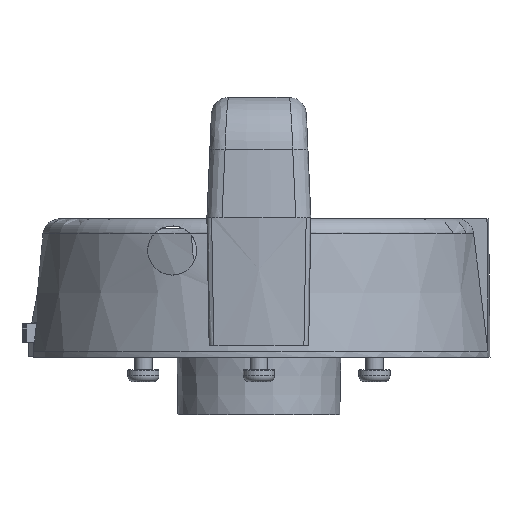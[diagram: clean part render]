
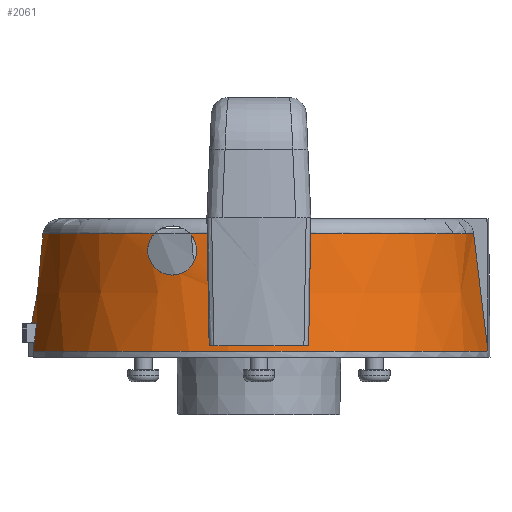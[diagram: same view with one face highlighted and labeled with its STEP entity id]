
A CAD part, left-side view. The second image highlights one B-rep face of the part: STEP entity #2061.
In plain terms, the highlighted conical face has half-angle 7 degrees and reference radius 0 mm.
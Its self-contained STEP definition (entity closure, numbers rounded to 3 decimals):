
#232=(
BOUNDED_CURVE()
B_SPLINE_CURVE(2,(#18035,#18036,#18037),.UNSPECIFIED.,.F.,.F.)
B_SPLINE_CURVE_WITH_KNOTS((3,3),(0.,1.),.UNSPECIFIED.)
CURVE()
GEOMETRIC_REPRESENTATION_ITEM()
RATIONAL_B_SPLINE_CURVE((3.829,3.803,3.778))
REPRESENTATION_ITEM('')
);
#241=(
BOUNDED_CURVE()
B_SPLINE_CURVE(2,(#18479,#18480,#18481),.UNSPECIFIED.,.F.,.F.)
B_SPLINE_CURVE_WITH_KNOTS((3,3),(0.,1.),.UNSPECIFIED.)
CURVE()
GEOMETRIC_REPRESENTATION_ITEM()
RATIONAL_B_SPLINE_CURVE((3.749,3.774,3.8))
REPRESENTATION_ITEM('')
);
#244=(
BOUNDED_CURVE()
B_SPLINE_CURVE(2,(#18982,#18983,#18984),.UNSPECIFIED.,.F.,.F.)
B_SPLINE_CURVE_WITH_KNOTS((3,3),(0.,1.),.UNSPECIFIED.)
CURVE()
GEOMETRIC_REPRESENTATION_ITEM()
RATIONAL_B_SPLINE_CURVE((3.983,4.108,4.233))
REPRESENTATION_ITEM('')
);
#245=(
BOUNDED_CURVE()
B_SPLINE_CURVE(2,(#18986,#18987,#18988),.UNSPECIFIED.,.F.,.F.)
B_SPLINE_CURVE_WITH_KNOTS((3,3),(0.,1.),.UNSPECIFIED.)
CURVE()
GEOMETRIC_REPRESENTATION_ITEM()
RATIONAL_B_SPLINE_CURVE((4.233,4.108,3.983))
REPRESENTATION_ITEM('')
);
#658=CONICAL_SURFACE('',#12774,0.,7.);
#888=CIRCLE('',#12691,39.386);
#889=CIRCLE('',#12693,39.991);
#891=CIRCLE('',#12695,39.991);
#926=CIRCLE('',#12764,37.499);
#927=CIRCLE('',#12765,37.499);
#928=CIRCLE('',#12766,37.499);
#2061=ADVANCED_FACE('',(#2808),#658,.T.);
#2808=FACE_OUTER_BOUND('',#3550,.T.);
#3550=EDGE_LOOP('',(#6167,#6168,#6169,#6170,#6171,#6172,#6173,#6174,#6175,
#6176,#6177,#6178));
#6167=ORIENTED_EDGE('',*,*,#10401,.T.);
#6168=ORIENTED_EDGE('',*,*,#10513,.F.);
#6169=ORIENTED_EDGE('',*,*,#10593,.T.);
#6170=ORIENTED_EDGE('',*,*,#10581,.F.);
#6171=ORIENTED_EDGE('',*,*,#10587,.T.);
#6172=ORIENTED_EDGE('',*,*,#10586,.F.);
#6173=ORIENTED_EDGE('',*,*,#10592,.T.);
#6174=ORIENTED_EDGE('',*,*,#10584,.F.);
#6175=ORIENTED_EDGE('',*,*,#10594,.T.);
#6176=ORIENTED_EDGE('',*,*,#10507,.F.);
#6177=ORIENTED_EDGE('',*,*,#10502,.T.);
#6178=ORIENTED_EDGE('',*,*,#10506,.T.);
#9179=VERTEX_POINT('',#18038);
#9180=VERTEX_POINT('',#18039);
#9253=VERTEX_POINT('',#18482);
#9254=VERTEX_POINT('',#18483);
#9255=VERTEX_POINT('',#18491);
#9258=VERTEX_POINT('',#18507);
#9294=VERTEX_POINT('',#18853);
#9295=VERTEX_POINT('',#18854);
#9296=VERTEX_POINT('',#18856);
#9297=VERTEX_POINT('',#18889);
#9298=VERTEX_POINT('',#18891);
#9299=VERTEX_POINT('',#18898);
#10401=EDGE_CURVE('',#9179,#9180,#232,.T.);
#10502=EDGE_CURVE('',#9253,#9254,#241,.T.);
#10506=EDGE_CURVE('',#9254,#9179,#888,.T.);
#10507=EDGE_CURVE('',#9253,#9255,#889,.T.);
#10513=EDGE_CURVE('',#9258,#9180,#891,.T.);
#10581=EDGE_CURVE('',#9295,#9296,#926,.T.);
#10584=EDGE_CURVE('',#9297,#9298,#927,.T.);
#10586=EDGE_CURVE('',#9299,#9294,#928,.T.);
#10587=EDGE_CURVE('',#9295,#9294,#12115,.T.);
#10592=EDGE_CURVE('',#9299,#9298,#12120,.T.);
#10593=EDGE_CURVE('',#9258,#9296,#244,.T.);
#10594=EDGE_CURVE('',#9297,#9255,#245,.T.);
#12115=B_SPLINE_CURVE_WITH_KNOTS('',3,(#18902,#18903,#18904,#18905,#18906,
#18907,#18908,#18909,#18910,#18911,#18912,#18913,#18914,#18915),
 .UNSPECIFIED.,.F.,.F.,(4,2,2,2,2,2,4),(0.,0.25,0.375,0.5,0.75,0.875,1.),
 .UNSPECIFIED.);
#12120=B_SPLINE_CURVE_WITH_KNOTS('',3,(#18965,#18966,#18967,#18968,#18969,
#18970,#18971,#18972,#18973,#18974,#18975,#18976,#18977,#18978),
 .UNSPECIFIED.,.F.,.F.,(4,2,2,2,2,2,4),(0.,0.125,0.25,0.5,0.625,0.75,1.),
 .UNSPECIFIED.);
#12691=AXIS2_PLACEMENT_3D('',#18488,#14404,#14405);
#12693=AXIS2_PLACEMENT_3D('',#18490,#14408,#14409);
#12695=AXIS2_PLACEMENT_3D('',#18508,#14412,#14413);
#12764=AXIS2_PLACEMENT_3D('',#18855,#14558,#14559);
#12765=AXIS2_PLACEMENT_3D('',#18890,#14560,#14561);
#12766=AXIS2_PLACEMENT_3D('',#18899,#14562,#14563);
#12774=AXIS2_PLACEMENT_3D('',#18989,#14578,#14579);
#14404=DIRECTION('',(0.,0.,1.));
#14405=DIRECTION('',(1.,0.,0.));
#14408=DIRECTION('',(0.,0.,-1.));
#14409=DIRECTION('',(-1.,0.,0.));
#14412=DIRECTION('',(0.,0.,-1.));
#14413=DIRECTION('',(-1.,0.,0.));
#14558=DIRECTION('',(0.,0.,1.));
#14559=DIRECTION('',(1.,0.,0.));
#14560=DIRECTION('',(0.,0.,1.));
#14561=DIRECTION('',(1.,0.,0.));
#14562=DIRECTION('',(0.,0.,1.));
#14563=DIRECTION('',(1.,0.,0.));
#14578=DIRECTION('',(0.,0.,-1.));
#14579=DIRECTION('',(-1.,0.,0.));
#18035=CARTESIAN_POINT('',(-8.5,38.458,5.));
#18036=CARTESIAN_POINT('',(-8.521,38.76,2.558));
#18037=CARTESIAN_POINT('',(-8.543,39.067,0.077));
#18038=CARTESIAN_POINT('',(-8.5,38.458,5.));
#18039=CARTESIAN_POINT('',(-8.543,39.067,0.077));
#18479=CARTESIAN_POINT('',(9.043,38.955,0.077));
#18480=CARTESIAN_POINT('',(9.021,38.647,2.558));
#18481=CARTESIAN_POINT('',(9.,38.344,5.));
#18482=CARTESIAN_POINT('',(9.043,38.955,0.077));
#18483=CARTESIAN_POINT('',(9.,38.344,5.));
#18488=CARTESIAN_POINT('',(0.,0.,5.));
#18490=CARTESIAN_POINT('',(0.,0.,0.077));
#18491=CARTESIAN_POINT('',(39.651,5.2,0.077));
#18507=CARTESIAN_POINT('',(-5.2,-39.651,0.077));
#18508=CARTESIAN_POINT('',(0.,0.,0.077));
#18853=CARTESIAN_POINT('',(-32.821,18.139,20.366));
#18854=CARTESIAN_POINT('',(-35.574,11.861,20.366));
#18855=CARTESIAN_POINT('',(0.,0.,20.366));
#18856=CARTESIAN_POINT('',(-5.023,-37.161,20.366));
#18889=CARTESIAN_POINT('',(37.161,5.023,20.366));
#18890=CARTESIAN_POINT('',(0.,0.,20.366));
#18891=CARTESIAN_POINT('',(35.574,11.861,20.366));
#18898=CARTESIAN_POINT('',(32.821,18.139,20.366));
#18899=CARTESIAN_POINT('',(0.,0.,20.366));
#18902=CARTESIAN_POINT('',(-35.574,11.861,20.366));
#18903=CARTESIAN_POINT('',(-36.1,10.755,19.154));
#18904=CARTESIAN_POINT('',(-36.431,10.428,17.209));
#18905=CARTESIAN_POINT('',(-36.388,11.536,14.893));
#18906=CARTESIAN_POINT('',(-36.281,12.137,14.251));
#18907=CARTESIAN_POINT('',(-35.878,13.576,13.41));
#18908=CARTESIAN_POINT('',(-35.586,14.391,13.223));
#18909=CARTESIAN_POINT('',(-34.572,16.718,13.314));
#18910=CARTESIAN_POINT('',(-33.677,18.16,14.24));
#18911=CARTESIAN_POINT('',(-32.788,19.184,16.407));
#18912=CARTESIAN_POINT('',(-32.577,19.328,17.274));
#18913=CARTESIAN_POINT('',(-32.482,19.083,18.954));
#18914=CARTESIAN_POINT('',(-32.601,18.689,19.763));
#18915=CARTESIAN_POINT('',(-32.821,18.139,20.366));
#18965=CARTESIAN_POINT('',(32.821,18.139,20.366));
#18966=CARTESIAN_POINT('',(32.597,18.7,19.75));
#18967=CARTESIAN_POINT('',(32.481,19.087,18.94));
#18968=CARTESIAN_POINT('',(32.579,19.327,17.261));
#18969=CARTESIAN_POINT('',(32.792,19.18,16.394));
#18970=CARTESIAN_POINT('',(33.683,18.152,14.234));
#18971=CARTESIAN_POINT('',(34.571,16.723,13.311));
#18972=CARTESIAN_POINT('',(35.592,14.377,13.224));
#18973=CARTESIAN_POINT('',(35.882,13.566,13.413));
#18974=CARTESIAN_POINT('',(36.284,12.124,14.261));
#18975=CARTESIAN_POINT('',(36.39,11.527,14.905));
#18976=CARTESIAN_POINT('',(36.429,10.425,17.23));
#18977=CARTESIAN_POINT('',(36.092,10.772,19.172));
#18978=CARTESIAN_POINT('',(35.574,11.861,20.366));
#18982=CARTESIAN_POINT('',(-5.2,-39.651,0.077));
#18983=CARTESIAN_POINT('',(-5.109,-38.366,10.55));
#18984=CARTESIAN_POINT('',(-5.023,-37.161,20.366));
#18986=CARTESIAN_POINT('',(37.161,5.023,20.366));
#18987=CARTESIAN_POINT('',(38.366,5.109,10.55));
#18988=CARTESIAN_POINT('',(39.651,5.2,0.077));
#18989=CARTESIAN_POINT('',(0.,0.,325.774));
